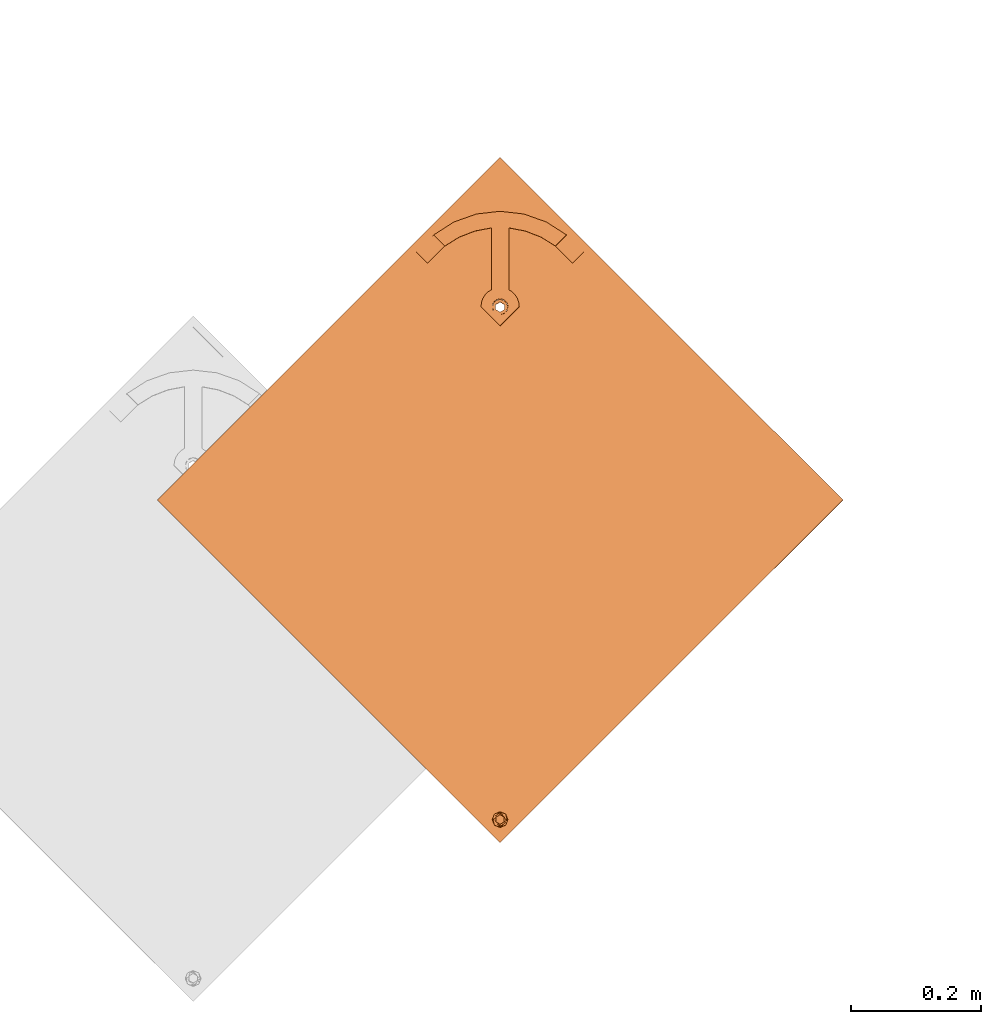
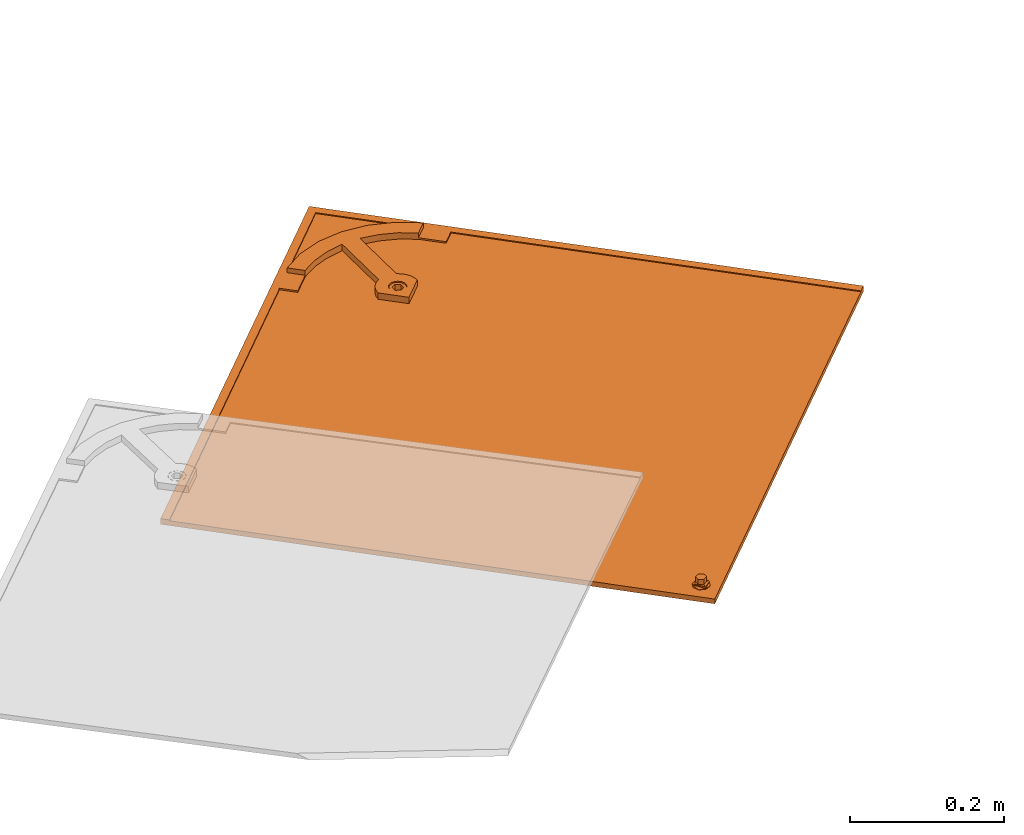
# One storey, part 144 of 151: 1 proxy.
"""IFC2X3 building model written with IfcOpenShell, lengths in millimetres."""

import ifcopenshell
import ifcopenshell.guid

model = None  # the IFC model being written
_history = None  # IfcOwnerHistory: only IFC2X3 demands one
_inside = {}  # id of a spatial element -> (the spatial element, [elements in it])
_under = {}  # id of a project, library or spatial element -> (it, [spatial elements below it])
_declared = {}  # id of a project -> (the project, [libraries it declares])
_typed = {}  # id of a type object -> (the type object, [elements of that type])
_made_of = {}  # id of a material, layer set ... -> (it, [elements and type objects made of it])


def new_model(schema):
    """Start an empty IFC model of exactly this schema.

    Asked for "IFC4X3", IfcOpenShell would pick the latest addendum, in which some entities
    have other attributes; the version numbers below select the first issue.
    IFC2X3 requires an IfcOwnerHistory on every rooted entity: one is made here for all.
    """
    global model, _history
    if schema == "IFC4X3":
        model = ifcopenshell.file(schema_version=(4, 3, 0, 0))
    else:
        model = ifcopenshell.file(schema=schema)
    _inside.clear()
    _under.clear()
    _declared.clear()
    _typed.clear()
    _made_of.clear()
    _history = None
    if model.schema == "IFC2X3":
        org = make("IfcOrganization", Name="unknown")
        user = make(
            "IfcPersonAndOrganization",
            ThePerson=make("IfcPerson", FamilyName="unknown"),
            TheOrganization=org,
        )
        app = make(
            "IfcApplication",
            ApplicationDeveloper=org,
            Version="unknown",
            ApplicationFullName="unknown",
            ApplicationIdentifier="unknown",
        )
        _history = make(
            "IfcOwnerHistory",
            OwningUser=user,
            OwningApplication=app,
            ChangeAction="ADDED",
            CreationDate=0,
        )
    return model


def make(cls, **values):
    """One entity of the class cls with the attributes given. An attribute that is None is left unset."""
    return model.create_entity(
        cls, **{name: value for name, value in values.items() if value is not None}
    )


def entity(cls, *values):
    """Any entity or typed value of the class cls, its attributes in the order of the schema. None: left unset."""
    e = model.create_entity(cls)
    for i, value in enumerate(values):
        if value is not None:
            e[i] = value
    return e


def rooted(cls, **values):
    """An entity with a GlobalId (a new one), such as an element, a storey or a relation."""
    return make(cls, GlobalId=ifcopenshell.guid.new(), OwnerHistory=_history, **values)


def si_unit(unit_type, name, prefix=None):
    """IfcSIUnit, for example si_unit("LENGTHUNIT", "METRE", prefix="MILLI")."""
    return make("IfcSIUnit", UnitType=unit_type, Prefix=prefix, Name=name)


def converted_unit(unit_type, name, factor, base, dimensions=None, offset=None):
    """IfcConversionBasedUnit, such as the inch: factor (a typed value) times the base unit."""
    return make(
        "IfcConversionBasedUnit"
        if offset is None
        else "IfcConversionBasedUnitWithOffset",
        ConversionOffset=offset,
        Dimensions=None
        if dimensions is None
        else entity("IfcDimensionalExponents", *dimensions),
        UnitType=unit_type,
        Name=name,
        ConversionFactor=make(
            "IfcMeasureWithUnit", ValueComponent=factor, UnitComponent=base
        ),
    )


def derived_unit(unit_type, elements):
    """IfcDerivedUnit: a product of units, each with its exponent."""
    return make(
        "IfcDerivedUnit",
        Elements=[
            make("IfcDerivedUnitElement", Unit=unit, Exponent=power)
            for unit, power in elements
        ],
        UnitType=unit_type,
    )


def assignment(units):
    """IfcUnitAssignment: the units of a project."""
    return None if units is None else make("IfcUnitAssignment", Units=units)


def point(xyz):
    """IfcCartesianPoint."""
    return None if xyz is None else make("IfcCartesianPoint", Coordinates=xyz)


def direction(xyz):
    """IfcDirection."""
    return None if xyz is None else make("IfcDirection", DirectionRatios=xyz)


def frame(location, z_axis=None, x_axis=None):
    """IfcAxis2Placement3D, a coordinate frame: its origin and axes. An axis left out is left unset."""
    return make(
        "IfcAxis2Placement3D",
        Location=point(location),
        Axis=direction(z_axis),
        RefDirection=direction(x_axis),
    )


def origin():
    """The frame at (0, 0, 0) with its axes left unset."""
    return frame((0.0, 0.0, 0.0))


def place(relative_to, where):
    """IfcLocalPlacement: puts the frame where relative to a parent placement (None: the world)."""
    return make(
        "IfcLocalPlacement", PlacementRelTo=relative_to, RelativePlacement=where
    )


def context(
    kind, dimensions, precision=None, world=None, true_north=None, identifier=None
):
    """IfcGeometricRepresentationContext, for example the 3D "Model" context."""
    return make(
        "IfcGeometricRepresentationContext",
        ContextIdentifier=identifier,
        ContextType=kind,
        CoordinateSpaceDimension=dimensions,
        Precision=precision,
        WorldCoordinateSystem=world,
        TrueNorth=true_north,
    )


def subcontext(parent, identifier, kind, view, scale=None):
    """IfcGeometricRepresentationSubContext, for example "Body" below "Model"."""
    return make(
        "IfcGeometricRepresentationSubContext",
        ContextIdentifier=identifier,
        ContextType=kind,
        ParentContext=parent,
        TargetScale=scale,
        TargetView=view,
    )


def project(units=None, contexts=None):
    """IfcProject with its units and contexts."""
    return rooted(
        "IfcProject",
        Name="project",
        RepresentationContexts=contexts,
        UnitsInContext=assignment(units),
    )


def spatial(cls, under=None, at=None, **own):
    """A site, building, storey or space (cls), placed at a placement, below another one or the project."""
    s = rooted(cls, ObjectPlacement=at, **own)
    if under is not None:
        _under.setdefault(under.id(), (under, []))[1].append(s)
    return s


def faces_of(points, faces, orient=None, outer=None):
    """IfcFace entities. A face is a list of loops; a loop is a list of indices into points, from 0.

    orient and outer hold one flag for each loop. By default every Orientation is true, the
    first loop of a face is its IfcFaceOuterBound and the others are IfcFaceBound.
    """
    made = []
    for i, loops in enumerate(faces):
        bounds = []
        for j, loop in enumerate(loops):
            is_outer = j == 0 if outer is None else outer[i][j]
            bounds.append(
                make(
                    "IfcFaceOuterBound" if is_outer else "IfcFaceBound",
                    Bound=make("IfcPolyLoop", Polygon=[points[k] for k in loop]),
                    Orientation=True if orient is None else orient[i][j],
                )
            )
        made.append(make("IfcFace", Bounds=bounds))
    return made


def faceted_brep(points, faces, orient=None, outer=None, voids=None):
    """IfcFacetedBrep: a solid bounded by flat faces; with voids (closed shells), ...WithVoids."""
    shared = [point(p) for p in points]
    hull = make("IfcClosedShell", CfsFaces=faces_of(shared, faces, orient, outer))
    if voids is None:
        return make("IfcFacetedBrep", Outer=hull)
    return make(
        "IfcFacetedBrepWithVoids",
        Outer=hull,
        Voids=[
            make(cls, CfsFaces=faces_of(shared, fs, o, b)) for cls, fs, o, b in voids
        ],
    )


def shape(context_of_items, identifier, shape_type, items):
    """IfcShapeRepresentation: the items that make up one representation, for example the "Body"."""
    return make(
        "IfcShapeRepresentation",
        ContextOfItems=context_of_items,
        RepresentationIdentifier=identifier,
        RepresentationType=shape_type,
        Items=items,
    )


def source(mapping_origin, context_of_items, identifier, shape_type, items):
    """IfcRepresentationMap: a shape defined once, which mapped items show again and again."""
    return make(
        "IfcRepresentationMap",
        MappingOrigin=mapping_origin,
        MappedRepresentation=shape(context_of_items, identifier, shape_type, items),
    )


def transform(
    local_origin,
    x_axis=None,
    y_axis=None,
    z_axis=None,
    scale=None,
    scale2=None,
    scale3=None,
    uniform=True,
):
    """IfcCartesianTransformationOperator3D, or its non-uniform kind. x_axis, y_axis, z_axis: its Axis1, 2, 3."""
    if uniform:
        return make(
            "IfcCartesianTransformationOperator3D",
            Axis1=direction(x_axis),
            Axis2=direction(y_axis),
            LocalOrigin=point(local_origin),
            Scale=scale,
            Axis3=direction(z_axis),
        )
    return make(
        "IfcCartesianTransformationOperator3DnonUniform",
        Axis1=direction(x_axis),
        Axis2=direction(y_axis),
        LocalOrigin=point(local_origin),
        Scale=scale,
        Axis3=direction(z_axis),
        Scale2=scale2,
        Scale3=scale3,
    )


def mapped(mapping_source, mapping_target):
    """IfcMappedItem: shows the shape of a source again, moved by a transform."""
    return make(
        "IfcMappedItem", MappingSource=mapping_source, MappingTarget=mapping_target
    )


def material(Name=None, Category=None):
    """IfcMaterial."""
    return make("IfcMaterial", Name=Name, Category=Category)


def material_list(materials):
    """IfcMaterialList."""
    return make("IfcMaterialList", Materials=materials)


def made_of(thing, what):
    """Note that an element or type object is made of a material, layer set ...; save() writes the relation."""
    if what is not None:
        _made_of.setdefault(what.id(), (what, []))[1].append(thing)
    return thing


def type_object(cls, material=None, **own):
    """A type object (cls), such as IfcWallType, which elements share."""
    return made_of(rooted(cls, **own), material)


def type_shapes(of_type, sources):
    """Give a type object the sources (RepresentationMaps) that its elements show as mapped items."""
    of_type.RepresentationMaps = sources


def element(
    cls,
    number,
    at=None,
    inside=None,
    cuts=None,
    type_object=None,
    material=None,
    context=None,
    identifier="Body",
    shape_type=None,
    held_by="IfcProductDefinitionShape",
    body=None,
    shapes=None,
    **own,
):
    """One element of the class cls, such as IfcWall. Its Tag is "e" and its number.

    at: its placement. inside: the storey or other place that contains it. cuts: it is an
    opening in that element (IfcRelVoidsElement). A single representation is given by context,
    identifier, shape_type and body (its items); several are given by shapes. held_by: the class
    of the entity that holds the representations. save() writes the other relations.
    """
    e = rooted(cls, Tag="e%d" % number, ObjectPlacement=at, **own)
    if body is not None:
        shapes = [shape(context, identifier, shape_type, body)]
    if shapes is not None:
        e.Representation = make(held_by, Representations=shapes)
    if inside is not None:
        _inside.setdefault(inside.id(), (inside, []))[1].append(e)
    if cuts is not None:
        rooted(
            "IfcRelVoidsElement", RelatingBuildingElement=cuts, RelatedOpeningElement=e
        )
    if type_object is not None:
        _typed.setdefault(type_object.id(), (type_object, []))[1].append(e)
    return made_of(e, material)


def aggregate(whole, parts):
    """IfcRelAggregates: a whole, such as a stair, and the parts it consists of."""
    return rooted("IfcRelAggregates", RelatingObject=whole, RelatedObjects=parts)


def save(model, path):
    """Write the relations noted so far, then the file.

    IfcRelAggregates (storeys below a building ...), IfcRelContainedInSpatialStructure (elements
    in a storey), IfcRelDefinesByType, IfcRelAssociatesMaterial and IfcRelDeclares: one each for
    every whole, place, type object, material and project.
    """
    for whole, parts in _under.values():
        aggregate(whole, parts)
    for where, things in _inside.values():
        rooted(
            "IfcRelContainedInSpatialStructure",
            RelatedElements=things,
            RelatingStructure=where,
        )
    for kind, things in _typed.values():
        rooted("IfcRelDefinesByType", RelatedObjects=things, RelatingType=kind)
    for what, things in _made_of.values():
        rooted("IfcRelAssociatesMaterial", RelatedObjects=things, RelatingMaterial=what)
    for by, libraries in _declared.values():
        rooted("IfcRelDeclares", RelatingContext=by, RelatedDefinitions=libraries)
    model.write(path)


model = new_model("IFC2X3")

# Units and contexts
model_context = context("Model", 3, precision=0.01, world=origin(), true_north=direction((6.12303176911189e-17, 1.0)))
body_context = subcontext(model_context, "Body", "Model", "MODEL_VIEW")
ifc_project = project(units=[si_unit("LENGTHUNIT", "METRE", prefix="MILLI"), si_unit("AREAUNIT", "SQUARE_METRE"), si_unit("VOLUMEUNIT", "CUBIC_METRE"), converted_unit("PLANEANGLEUNIT", "DEGREE", entity("IfcRatioMeasure", 0.0174532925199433), si_unit("PLANEANGLEUNIT", "RADIAN"), dimensions=[0, 0, 0, 0, 0, 0, 0]), si_unit("MASSUNIT", "GRAM", prefix="KILO"), derived_unit("MASSDENSITYUNIT", [(si_unit("MASSUNIT", "GRAM", prefix="KILO"), 1), (si_unit("LENGTHUNIT", "METRE"), -3)]), si_unit("TIMEUNIT", "SECOND"), si_unit("FREQUENCYUNIT", "HERTZ"), si_unit("THERMODYNAMICTEMPERATUREUNIT", "DEGREE_CELSIUS"), derived_unit("THERMALTRANSMITTANCEUNIT", [(si_unit("MASSUNIT", "GRAM", prefix="KILO"), 1), (si_unit("THERMODYNAMICTEMPERATUREUNIT", "KELVIN"), -1), (si_unit("TIMEUNIT", "SECOND"), -3)]), derived_unit("VOLUMETRICFLOWRATEUNIT", [(si_unit("LENGTHUNIT", "METRE"), 3), (si_unit("TIMEUNIT", "SECOND"), -1)]), si_unit("ELECTRICCURRENTUNIT", "AMPERE"), si_unit("ELECTRICVOLTAGEUNIT", "VOLT"), si_unit("POWERUNIT", "WATT"), si_unit("FORCEUNIT", "NEWTON", prefix="KILO"), si_unit("ILLUMINANCEUNIT", "LUX"), si_unit("LUMINOUSFLUXUNIT", "LUMEN"), si_unit("LUMINOUSINTENSITYUNIT", "CANDELA"), derived_unit("USERDEFINED", [(si_unit("MASSUNIT", "GRAM", prefix="KILO"), -1), (si_unit("LENGTHUNIT", "METRE"), -2), (si_unit("TIMEUNIT", "SECOND"), 3), (si_unit("LUMINOUSFLUXUNIT", "LUMEN"), 1)]), derived_unit("LINEARVELOCITYUNIT", [(si_unit("LENGTHUNIT", "METRE"), 1), (si_unit("TIMEUNIT", "SECOND"), -1)]), si_unit("PRESSUREUNIT", "PASCAL"), derived_unit("USERDEFINED", [(si_unit("LENGTHUNIT", "METRE"), -2), (si_unit("MASSUNIT", "GRAM", prefix="KILO"), 1), (si_unit("TIMEUNIT", "SECOND"), -2)])], contexts=[model_context])

# Site, building, storey
site_placement = place(None, origin())
site = spatial("IfcSite", under=ifc_project, at=site_placement, Name="Default", CompositionType="ELEMENT")
building_placement = place(site_placement, origin())
building = spatial("IfcBuilding", under=site, at=building_placement, CompositionType="ELEMENT")
storey_placement = place(building_placement, origin())
storey = spatial("IfcBuildingStorey", under=building, at=storey_placement, Name="Level 1", CompositionType="ELEMENT", Elevation=0.0)

# Proxy
ifc_material_1 = material(Name="Rubber - Sunstyle - Black")
ifc_material_2 = material(Name="Glass - Sunstyle - Tainted Black")
ifc_material_list_1 = material_list([ifc_material_1, ifc_material_2])
ifc_material_list_2 = material_list([ifc_material_1, ifc_material_2])
building_element_proxy_type = type_object("IfcBuildingElementProxyType", Name="Shingle Customisable - Black", PredefinedType="NOTDEFINED", material=ifc_material_list_2)
shared_shape = source(origin(), body_context, "Body", "Brep", [
    faceted_brep([(0.0, -484.924696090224, 4.00636906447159), (-5.77420283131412, -488.257966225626, 4.0621930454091), (-5.77420283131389, -487.889657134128, 26.0540623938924), (0.0, -484.556386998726, 25.9982384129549), (-5.77420283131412, -494.92450649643, 4.17384100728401), (-5.7742028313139, -494.556197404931, 26.1657103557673), (0.0, -498.257776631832, 4.2296649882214), (0.0, -497.889467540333, 26.2215343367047), (5.77420283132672, -494.92450649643, 4.17384100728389), (5.77420283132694, -494.556197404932, 26.1657103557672), (5.77420283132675, -488.257966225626, 4.06219304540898), (5.77420283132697, -487.889657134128, 26.0540623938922), (-8.60370416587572, -499.825425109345, 26.2539568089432), (0.0, -503.388696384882, 26.3136327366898), (-12.16747511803, -491.22292726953, 26.1098863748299), (-8.6037041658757, -482.620429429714, 25.9658159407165), (0.0, -479.057158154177, 25.9061400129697), (8.60370416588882, -482.620429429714, 25.9658159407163), (12.1674751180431, -491.22292726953, 26.1098863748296), (8.60370416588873, -499.825425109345, 26.253956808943), (-11.3242446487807, -488.92785012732, 28.4227283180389), (-9.75647455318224, -491.151912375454, 30.3502110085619), (0.0, -483.838837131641, 30.9829114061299), (0.0, -482.59833949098, 30.402564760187), (0.0, -480.440788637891, 29.3931896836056), (0.0, -502.832652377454, 27.5886907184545), (0.0, -501.889075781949, 29.7523951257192), (0.0, -498.439700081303, 31.2274395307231), (0.0, -479.5701942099, 27.1991024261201), (-6.3232456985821, -494.789484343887, 31.1663074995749), (-6.32324569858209, -487.489052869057, 31.0440434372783), (11.3242446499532, -493.439270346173, 28.498283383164), (9.84888015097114, -492.226318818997, 30.2713428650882), (6.32324569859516, -487.489052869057, 31.0440434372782), (6.32324569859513, -494.789484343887, 31.1663074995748), (-6.32324569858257, -494.655455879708, 39.1691956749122), (0.0, -498.305671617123, 39.2303277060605), (0.0, -491.005240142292, 39.1080636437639), (-6.32324569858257, -487.355024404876, 39.0469316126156), (6.32324569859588, -494.655455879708, 39.1691956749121), (6.32324569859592, -487.355024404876, 39.0469316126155), (0.0, -483.704808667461, 38.9857995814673), (0.0, -491.591236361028, 4.11801702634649)], [[[0, 1, 2, 3]], [[1, 4, 5, 2]], [[4, 6, 7, 5]], [[6, 8, 9, 7]], [[8, 10, 11, 9]], [[10, 0, 3, 11]], [[12, 7, 13]], [[7, 12, 5]], [[14, 5, 12]], [[5, 14, 2]], [[15, 2, 14]], [[3, 2, 15]], [[15, 16, 3]], [[16, 17, 3]], [[11, 3, 17]], [[11, 17, 18]], [[9, 11, 18]], [[18, 19, 9]], [[7, 9, 19]], [[19, 13, 7]], [[20, 14, 12]], [[21, 22, 23, 24]], [[24, 20, 21]], [[25, 20, 12]], [[26, 27, 21]], [[15, 14, 20]], [[12, 13, 25]], [[20, 28, 15]], [[28, 20, 24]], [[21, 27, 29]], [[21, 29, 30]], [[26, 21, 20]], [[20, 25, 26]], [[15, 28, 16]], [[21, 30, 22]], [[31, 18, 17]], [[28, 31, 17]], [[32, 27, 26]], [[26, 31, 32]], [[26, 25, 31]], [[25, 19, 31]], [[17, 16, 28]], [[31, 19, 18]], [[24, 31, 28]], [[33, 34, 32]], [[23, 22, 33]], [[24, 32, 31]], [[27, 32, 34]], [[32, 23, 33]], [[19, 25, 13]], [[32, 24, 23]], [[35, 36, 37]], [[37, 38, 35]], [[36, 39, 37]], [[40, 37, 39]], [[37, 40, 41]], [[37, 41, 38]], [[42, 6, 4]], [[4, 1, 42]], [[1, 0, 42]], [[42, 8, 6]], [[0, 10, 42]], [[8, 42, 10]], [[22, 30, 38, 41]], [[30, 29, 35, 38]], [[29, 27, 36, 35]], [[27, 34, 39, 36]], [[34, 33, 40, 39]], [[33, 22, 41, 40]]]),
    faceted_brep([(0.0, 284.15295254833, 20.3195200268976), (0.0, 288.652321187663, 20.2441667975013), (-8.60370416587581, 287.716223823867, 20.2598440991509), (8.6037041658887, 287.716223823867, 20.2598440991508), (6.64022859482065, 292.485521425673, 20.1799702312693), (12.1674751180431, 296.318721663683, 20.1157736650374), (6.64022859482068, 300.151921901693, 20.0515770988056), (8.60370416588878, 304.921219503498, 19.9717032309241), (0.0, 303.985122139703, 19.9873805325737), (0.0, 308.484490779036, 19.9120273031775), (-8.60370416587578, 304.921219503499, 19.9717032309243), (-6.64022859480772, 300.151921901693, 20.0515770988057), (-12.1674751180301, 296.318721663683, 20.1157736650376), (-6.64022859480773, 292.485521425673, 20.1799702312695), (-6.6402282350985, 299.883999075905, 4.05382046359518), (0.0, 303.717199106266, 3.98962390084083), (-6.64022823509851, 292.217599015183, 4.18221358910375), (0.0, 288.384398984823, 4.24641015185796), (6.64022823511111, 292.217599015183, 4.18221358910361), (6.64022823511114, 299.883999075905, 4.05382046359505), (-8.60370416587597, 287.448301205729, 4.26208746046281), (0.0, 283.885029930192, 4.32176338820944), (-12.1674751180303, 296.050799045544, 4.11801702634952), (-8.60370416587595, 304.65329688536, 3.97394659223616), (0.0, 308.216568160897, 3.91427066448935), (8.60370416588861, 304.65329688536, 3.97394659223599), (12.1674751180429, 296.050799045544, 4.11801702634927), (8.60370416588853, 287.448301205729, 4.26208746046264)], [[[0, 1, 2]], [[1, 0, 3]], [[3, 4, 1]], [[4, 3, 5]], [[6, 4, 5]], [[5, 7, 6]], [[7, 8, 6]], [[8, 7, 9]], [[8, 9, 10]], [[10, 11, 8]], [[12, 11, 10]], [[2, 13, 12]], [[12, 13, 11]], [[13, 2, 1]], [[8, 11, 14, 15]], [[11, 13, 16, 14]], [[13, 1, 17, 16]], [[1, 4, 18, 17]], [[4, 6, 19, 18]], [[6, 8, 15, 19]], [[20, 17, 21]], [[17, 20, 16]], [[22, 16, 20]], [[14, 16, 22]], [[23, 14, 22]], [[15, 14, 23]], [[23, 24, 15]], [[24, 25, 15]], [[19, 15, 25]], [[19, 25, 26]], [[26, 18, 19]], [[26, 27, 18]], [[17, 18, 27]], [[27, 21, 17]], [[24, 23, 10, 9]], [[10, 23, 22, 12]], [[20, 21, 0, 2]], [[20, 2, 12, 22]], [[21, 27, 3, 0]], [[3, 27, 26, 5]], [[25, 24, 9, 7]], [[25, 7, 5, 26]]]),
    faceted_brep([(518.346802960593, -8.59822572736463, 16.4476231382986), (526.831489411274, -0.113539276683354, 16.3055257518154), (526.831489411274, -0.088421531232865, 17.8053154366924), (518.346802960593, -8.57310798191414, 17.9474128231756), (0.0, 509.603232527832, 7.76903809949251), (-518.346802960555, -8.59822572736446, 16.4476231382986), (-526.831489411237, -0.113539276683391, 16.3055257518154), (0.0, 526.570226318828, 7.48488317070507), (0.0, 526.595344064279, 8.98467285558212), (-526.831489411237, -0.0884215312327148, 17.8053154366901), (-518.346802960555, -8.57310798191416, 17.9474128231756), (0.0, 509.628350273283, 9.26882778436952)], [[[0, 1, 2, 3]], [[1, 0, 4, 5, 6, 7]], [[2, 1, 7, 8]], [[3, 2, 8, 9, 10, 11]], [[0, 3, 11, 4]], [[5, 10, 9, 6]], [[8, 7, 6, 9]], [[4, 11, 10, 5]]]),
    faceted_brep([(0.0, 526.570226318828, 7.48488317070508), (-3.10582854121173, 307.961991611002, 11.1460271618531), (0.0, 308.370824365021, 11.1391802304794), (-6.0, 306.763354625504, 11.166101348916), (3.10582854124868, 307.961991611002, 11.1460271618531), (6.0, 306.763354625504, 11.166101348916), (8.485281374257, 304.856598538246, 11.1980347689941), (10.3923048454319, 302.371665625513, 11.2396512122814), (-8.48528137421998, 304.856598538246, 11.1980347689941), (-10.3923048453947, 302.371665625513, 11.2396512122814), (-11.5911099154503, 299.477899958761, 11.2881145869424), (-526.831489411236, -0.113539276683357, 16.3055257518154), (11.5911099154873, 299.477899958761, 11.2881145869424), (526.831489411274, -0.113539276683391, 16.3055257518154), (-12.0, 296.372506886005, 11.3401221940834), (-11.5911099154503, 293.267113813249, 11.3921298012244), (-10.3923048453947, 290.373348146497, 11.4405931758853), (-8.48528137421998, 287.888415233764, 11.4822096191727), (-6.0, 285.981659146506, 11.5141430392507), (-3.10582854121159, 284.783022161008, 11.5342172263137), (-2.07055236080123, -483.715939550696, 24.4046626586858), (-4.0, -484.515030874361, 24.4180454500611), (-5.65685424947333, -485.7862015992, 24.4393343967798), (-6.92820323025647, -487.442823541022, 24.4670786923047), (-7.72740661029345, -489.37200065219, 24.4993876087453), (-8.0, -491.442262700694, 24.5340593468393), (-7.72740661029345, -493.512524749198, 24.5687310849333), (0.0, -526.797304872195, 25.1261683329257), (-6.92820323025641, -495.441701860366, 24.601040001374), (-5.65685424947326, -497.098323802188, 24.6287842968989), (-4.0, -498.369494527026, 24.6500732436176), (-2.07055236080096, -499.168585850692, 24.6634560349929), (0.0, -499.441141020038, 24.6680206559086), (2.07055236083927, -499.168585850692, 24.6634560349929), (4.0, -498.369494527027, 24.6500732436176), (5.65685424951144, -497.098323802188, 24.6287842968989), (6.92820323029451, -495.441701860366, 24.601040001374), (7.72740661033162, -493.512524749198, 24.5687310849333), (12.0, 296.372506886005, 11.3401221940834), (11.5911099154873, 293.267113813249, 11.3921298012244), (10.3923048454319, 290.373348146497, 11.4405931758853), (8.48528137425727, 287.888415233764, 11.4822096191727), (6.0, 285.981659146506, 11.5141430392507), (3.10582854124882, 284.783022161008, 11.5342172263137), (2.07055236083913, -483.715939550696, 24.4046626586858), (4.0, -484.515030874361, 24.4180454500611), (5.65685424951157, -485.7862015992, 24.4393343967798), (8.0, -491.442262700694, 24.5340593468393), (7.72740661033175, -489.37200065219, 24.4993876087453), (6.92820323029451, -487.442823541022, 24.4670786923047), (0.0, 284.374189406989, 11.5410641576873), (0.0, -483.44338438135, 24.40009803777), (-526.831489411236, -0.239128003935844, 8.80657732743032), (-6.92820323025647, -487.568412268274, 16.9681302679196), (-7.72740661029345, -489.497589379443, 17.0004391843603), (-5.6568542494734, -485.911790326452, 16.9403859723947), (-8.0, -491.567851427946, 17.0351109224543), (-7.72740661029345, -493.63811347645, 17.0697826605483), (0.0, -526.922893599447, 17.6272199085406), (-4.0, -484.640619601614, 16.919097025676), (-2.07055236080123, -483.841528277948, 16.9057142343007), (-3.10582854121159, 284.657433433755, 4.03526880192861), (-6.0, 285.856070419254, 4.01519461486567), (-8.48528137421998, 287.762826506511, 3.98326119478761), (-10.3923048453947, 290.247759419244, 3.94164475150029), (-11.5911099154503, 293.141525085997, 3.89318137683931), (-12.0, 296.246918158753, 3.84117376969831), (-11.5911099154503, 299.352311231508, 3.78916616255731), (0.0, 526.444637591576, -0.0140652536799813), (-10.3923048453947, 302.246076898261, 3.74070278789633), (-8.48528137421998, 304.731009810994, 3.69908634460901), (-6.0, 306.637765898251, 3.66715292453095), (-3.10582854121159, 307.83640288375, 3.64707873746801), (0.0, 308.245235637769, 3.64023180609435), (3.10582854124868, 307.83640288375, 3.64707873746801), (6.0, 306.637765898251, 3.66715292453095), (8.485281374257, 304.731009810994, 3.69908634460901), (10.3923048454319, 302.246076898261, 3.74070278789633), (11.5911099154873, 299.352311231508, 3.78916616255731), (526.831489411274, -0.239128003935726, 8.80657732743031), (7.72740661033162, -493.63811347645, 17.0697826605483), (8.0, -491.567851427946, 17.0351109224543), (7.72740661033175, -489.497589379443, 17.0004391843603), (6.92820323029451, -487.568412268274, 16.9681302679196), (5.65685424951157, -485.911790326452, 16.9403859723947), (4.0, -484.640619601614, 16.919097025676), (2.07055236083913, -483.841528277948, 16.9057142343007), (3.10582854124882, 284.657433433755, 4.03526880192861), (6.0, 285.856070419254, 4.01519461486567), (12.0, 296.246918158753, 3.84117376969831), (11.5911099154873, 293.141525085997, 3.89318137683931), (10.3923048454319, 290.247759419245, 3.94164475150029), (8.48528137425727, 287.762826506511, 3.98326119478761), (0.0, 284.248600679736, 4.04211573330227), (0.0, -483.568973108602, 16.901149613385), (-6.92820323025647, -495.567290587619, 17.1020915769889), (-5.65685424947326, -497.223912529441, 17.1298358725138), (-4.0, -498.495083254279, 17.1511248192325), (-2.07055236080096, -499.294174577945, 17.1645076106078), (0.0, -499.566729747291, 17.1690722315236), (2.07055236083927, -499.294174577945, 17.1645076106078), (4.0, -498.495083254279, 17.1511248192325), (5.65685424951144, -497.223912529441, 17.1298358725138), (6.92820323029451, -495.567290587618, 17.1020915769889)], [[[0, 1, 2]], [[1, 0, 3]], [[0, 2, 4]], [[4, 5, 0]], [[5, 6, 0]], [[0, 6, 7]], [[8, 3, 0]], [[9, 8, 0]], [[9, 0, 10]], [[10, 0, 11]], [[12, 0, 7]], [[12, 13, 0]], [[11, 14, 10]], [[14, 11, 15]], [[16, 15, 11]], [[16, 11, 17]], [[18, 17, 11]], [[11, 19, 18]], [[19, 11, 20]], [[21, 20, 11]], [[11, 22, 21]], [[22, 11, 23]], [[23, 11, 24]], [[25, 24, 11]], [[25, 11, 26]], [[26, 11, 27]], [[27, 28, 26]], [[29, 28, 27]], [[30, 29, 27]], [[31, 30, 27]], [[27, 32, 31]], [[32, 27, 33]], [[34, 33, 27]], [[34, 27, 35]], [[36, 35, 27]], [[37, 36, 27]], [[37, 27, 13]], [[12, 38, 13]], [[39, 13, 38]], [[13, 39, 40]], [[13, 40, 41]], [[41, 42, 13]], [[42, 43, 13]], [[13, 43, 44]], [[45, 13, 44]], [[46, 13, 45]], [[47, 37, 13]], [[48, 47, 13]], [[49, 48, 13]], [[46, 49, 13]], [[20, 50, 19]], [[51, 50, 20]], [[44, 50, 51]], [[43, 50, 44]], [[52, 53, 54]], [[53, 52, 55]], [[52, 54, 56]], [[56, 57, 52]], [[52, 57, 58]], [[59, 55, 52]], [[60, 59, 52]], [[60, 52, 61]], [[61, 52, 62]], [[63, 62, 52]], [[64, 63, 52]], [[65, 64, 52]], [[66, 65, 52]], [[66, 52, 67]], [[52, 68, 67]], [[69, 67, 68]], [[70, 69, 68]], [[68, 71, 70]], [[71, 68, 72]], [[72, 68, 73]], [[74, 73, 68]], [[74, 68, 75]], [[76, 75, 68]], [[68, 77, 76]], [[77, 68, 78]], [[68, 79, 78]], [[58, 80, 79]], [[81, 79, 80]], [[81, 82, 79]], [[82, 83, 79]], [[84, 79, 83]], [[79, 84, 85]], [[85, 86, 79]], [[87, 79, 86]], [[87, 88, 79]], [[89, 78, 79]], [[79, 90, 89]], [[90, 79, 91]], [[92, 91, 79]], [[92, 79, 88]], [[93, 60, 61]], [[93, 86, 94]], [[94, 60, 93]], [[87, 86, 93]], [[58, 57, 95]], [[96, 58, 95]], [[96, 97, 58]], [[97, 98, 58]], [[99, 58, 98]], [[58, 99, 100]], [[58, 100, 101]], [[101, 102, 58]], [[102, 103, 58]], [[103, 80, 58]], [[11, 0, 68, 52]], [[27, 11, 52, 58]], [[13, 27, 58, 79]], [[0, 13, 79, 68]], [[25, 56, 54, 24]], [[24, 54, 53, 23]], [[21, 22, 55, 59]], [[55, 22, 23, 53]], [[20, 21, 59, 60]], [[20, 60, 94, 51]], [[51, 94, 86, 44]], [[44, 86, 85, 45]], [[49, 46, 84, 83]], [[84, 46, 45, 85]], [[48, 49, 83, 82]], [[48, 82, 81, 47]], [[47, 81, 80, 37]], [[37, 80, 103, 36]], [[34, 35, 102, 101]], [[102, 35, 36, 103]], [[33, 34, 101, 100]], [[33, 100, 99, 32]], [[32, 99, 98, 31]], [[31, 98, 97, 30]], [[28, 29, 96, 95]], [[96, 29, 30, 97]], [[26, 28, 95, 57]], [[26, 57, 56, 25]], [[14, 66, 67, 10]], [[10, 67, 69, 9]], [[3, 8, 70, 71]], [[70, 8, 9, 69]], [[1, 3, 71, 72]], [[1, 72, 73, 2]], [[2, 73, 74, 4]], [[4, 74, 75, 5]], [[7, 6, 76, 77]], [[76, 6, 5, 75]], [[12, 7, 77, 78]], [[12, 78, 89, 38]], [[38, 89, 90, 39]], [[39, 90, 91, 40]], [[42, 41, 92, 88]], [[92, 41, 40, 91]], [[43, 42, 88, 87]], [[43, 87, 93, 50]], [[50, 93, 61, 19]], [[19, 61, 62, 18]], [[16, 17, 63, 64]], [[63, 17, 18, 62]], [[15, 16, 64, 65]], [[15, 65, 66, 14]]]),
    faceted_brep([(-111.170556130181, 363.595276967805, 12.7146586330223), (-84.8459082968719, 389.916233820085, 12.273848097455), (-101.929084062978, 406.997014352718, 11.9877875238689), (-108.181486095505, 401.635366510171, 12.077581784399), (-114.152481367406, 395.962091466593, 12.1725950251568), (-128.848225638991, 381.270467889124, 12.4186431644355), (129.045201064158, 381.270467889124, 12.4186431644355), (114.349456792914, 395.962091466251, 12.1725950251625), (108.378461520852, 401.635366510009, 12.0775817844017), (102.126059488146, 406.997014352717, 11.9877875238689), (85.0416860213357, 389.917431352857, 12.2738280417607), (111.367531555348, 363.595276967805, 12.7146586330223), (-8.38679366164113, 305.334718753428, 21.1914297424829), (-18.6056184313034, 319.51669862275, 20.9539168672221), (-23.1061627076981, 314.883693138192, 21.0315081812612), (-10.2938171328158, 302.849785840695, 21.2330461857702), (-5.90151228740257, 307.241474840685, 21.1594963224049), (-13.2015122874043, 323.054746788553, 20.8946633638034), (-3.00734082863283, 308.440111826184, 21.1394221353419), (0.0984877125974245, 308.848944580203, 21.1325752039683), (13.3984877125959, 323.054746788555, 20.8946633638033), (3.20431625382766, 308.440111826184, 21.1394221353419), (6.09848771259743, 307.241474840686, 21.1594963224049), (18.8025938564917, 319.516698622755, 20.953916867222), (8.58376908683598, 305.334718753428, 21.1914297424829), (23.3031381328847, 314.883693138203, 21.031508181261), (10.4907925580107, 302.849785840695, 21.2330461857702), (26.682707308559, 309.379542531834, 21.1236890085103), (11.6895976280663, 299.956020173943, 21.2815095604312), (28.7780404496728, 303.270142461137, 21.2260062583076), (12.0984877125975, 296.850627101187, 21.3335171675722), (29.4879157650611, 296.850627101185, 21.3335171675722), (11.6895976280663, 293.745234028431, 21.3855247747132), (10.4907925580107, 290.851468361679, 21.4339881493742), (8.58376908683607, 288.366535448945, 21.4756045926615), (0.0984877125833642, 267.465319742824, 21.8256479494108), (6.09848771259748, 286.459779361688, 21.5075380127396), (3.20431625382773, 285.26114237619, 21.5276121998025), (0.0984877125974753, 284.852309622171, 21.5344591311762), (-3.00734082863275, 285.26114237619, 21.5276121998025), (-5.9015122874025, 286.459779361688, 21.5075380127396), (-8.3867936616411, 288.366535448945, 21.4756045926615), (-29.2909403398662, 296.850627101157, 21.3335171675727), (-10.2938171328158, 290.851468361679, 21.4339881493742), (-11.4926222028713, 293.745234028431, 21.3855247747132), (-11.9015122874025, 296.850627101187, 21.3335171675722), (-28.581065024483, 303.270142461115, 21.226006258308), (-11.4926222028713, 299.956020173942, 21.2815095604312), (-26.4857318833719, 309.379542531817, 21.1236890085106), (-13.201512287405, 417.933732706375, 19.3056764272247), (13.398487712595, 417.933732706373, 19.3056764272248), (0.0984877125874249, 443.405345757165, 18.8790902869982), (36.5893285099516, 439.231380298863, 18.9489938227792), (38.8682304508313, 413.118852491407, 19.3863136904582), (71.194572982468, 426.925165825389, 19.1550922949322), (63.0228208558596, 403.715218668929, 19.5438011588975), (102.126059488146, 407.12260307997, 19.4867359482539), (85.042883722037, 390.041822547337, 19.77279652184), (-36.3923530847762, 439.231380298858, 18.9489938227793), (-38.6712550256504, 413.118852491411, 19.3863136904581), (-70.9975975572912, 426.92516582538, 19.1550922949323), (-62.8258454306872, 403.715218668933, 19.5438011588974), (-101.929084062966, 407.122603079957, 19.4867359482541), (-84.8459082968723, 390.041822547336, 19.77279652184), (0.0984877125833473, 267.297868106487, 11.8270500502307), (0.0984877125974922, 284.684857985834, 11.5358612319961), (3.20431625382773, 285.093690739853, 11.5290143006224), (-3.00734082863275, 285.093690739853, 11.5290143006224), (6.0984877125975, 286.292327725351, 11.5089401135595), (8.58376908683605, 288.199083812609, 11.4770066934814), (29.4879157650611, 296.683175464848, 11.3349192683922), (-5.90151228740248, 286.292327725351, 11.5089401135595), (-8.38679366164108, 288.199083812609, 11.4770066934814), (-29.2909403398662, 296.68317546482, 11.3349192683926), (-10.2938171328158, 290.684016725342, 11.4353902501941), (-11.4926222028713, 293.577782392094, 11.3869268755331), (-11.9015122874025, 296.68317546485, 11.3349192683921), (-28.5810650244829, 303.102690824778, 11.2274083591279), (-11.4926222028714, 299.788568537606, 11.2829116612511), (-26.4857318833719, 309.21209089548, 11.1250911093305), (-10.2938171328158, 302.682334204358, 11.2344482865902), (-23.1061627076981, 314.716241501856, 11.0329102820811), (-8.38679366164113, 305.167267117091, 11.1928318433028), (-18.6056184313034, 319.349246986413, 10.955318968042), (-5.90151228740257, 307.074023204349, 11.1608984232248), (-13.2015122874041, 322.887295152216, 10.8960654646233), (-3.00734082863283, 308.272660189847, 11.1408242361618), (0.0984877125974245, 308.681492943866, 11.1339773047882), (13.3984877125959, 322.887295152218, 10.8960654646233), (-13.201512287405, 417.766281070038, 9.30707852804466), (13.3984877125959, 417.766281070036, 9.30707852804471), (0.0984877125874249, 443.237894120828, 8.88049238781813), (-36.3923530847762, 439.063928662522, 8.95039592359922), (-38.6712550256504, 412.951400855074, 9.38771579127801), (-70.9975975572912, 426.757714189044, 9.15649439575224), (-62.8258454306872, 403.547767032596, 9.54520325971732), (-101.929084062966, 406.95515144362, 9.48813804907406), (-84.8447105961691, 389.875568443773, 9.77417856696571), (-108.181486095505, 401.593503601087, 9.577932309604), (-114.152481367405, 395.920228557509, 9.67294555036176), (-111.170556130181, 363.553414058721, 10.2150091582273), (-128.848225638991, 381.22860498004, 9.91899368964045), (36.5893285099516, 439.063928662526, 8.95039592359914), (38.8682304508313, 412.95140085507, 9.38771579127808), (71.194572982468, 426.757714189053, 9.15649439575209), (63.0228208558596, 403.547767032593, 9.54520325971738), (102.126059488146, 406.955151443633, 9.48813804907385), (85.042883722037, 389.874370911, 9.77419862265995), (108.378461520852, 401.593503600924, 9.57793230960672), (114.349456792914, 395.920228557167, 9.67294555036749), (111.367531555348, 363.553414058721, 10.2150091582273), (129.045201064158, 381.22860498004, 9.91899368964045), (3.20431625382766, 308.272660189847, 11.1408242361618), (6.09848771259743, 307.074023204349, 11.1608984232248), (18.8025938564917, 319.349246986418, 10.9553189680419), (8.58376908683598, 305.167267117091, 11.1928318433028), (23.3031381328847, 314.716241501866, 11.0329102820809), (10.4907925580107, 302.682334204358, 11.2344482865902), (26.682707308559, 309.212090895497, 11.1250911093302), (11.6895976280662, 299.788568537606, 11.2829116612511), (28.7780404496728, 303.102690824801, 11.2274083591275), (12.0984877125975, 296.68317546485, 11.3349192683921), (11.6895976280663, 293.577782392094, 11.3869268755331), (10.4907925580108, 290.684016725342, 11.4353902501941)], [[[0, 1, 2, 3, 4, 5]], [[6, 7, 8, 9, 10, 11]], [[12, 13, 14]], [[15, 12, 14]], [[16, 13, 12]], [[13, 16, 17]], [[17, 16, 18]], [[18, 19, 17]], [[20, 17, 19]], [[19, 21, 20]], [[22, 20, 21]], [[22, 23, 20]], [[22, 24, 23]], [[25, 23, 24]], [[26, 25, 24]], [[25, 26, 27]], [[26, 28, 27]], [[29, 27, 28]], [[28, 30, 29]], [[31, 29, 30]], [[30, 32, 31]], [[32, 33, 31]], [[31, 33, 34]], [[34, 35, 31]], [[34, 36, 35]], [[37, 35, 36]], [[38, 35, 37]], [[35, 38, 39]], [[40, 35, 39]], [[40, 41, 35]], [[42, 35, 41]], [[43, 42, 41]], [[43, 44, 42]], [[44, 45, 42]], [[45, 46, 42]], [[46, 45, 47]], [[48, 46, 47]], [[47, 15, 48]], [[48, 15, 14]], [[20, 49, 17]], [[49, 20, 50]], [[51, 49, 50]], [[50, 52, 51]], [[53, 52, 50]], [[52, 53, 54]], [[55, 54, 53]], [[54, 55, 56]], [[55, 57, 56]], [[58, 49, 51]], [[49, 58, 59]], [[60, 59, 58]], [[60, 61, 59]], [[61, 60, 62]], [[61, 62, 63]], [[64, 65, 66]], [[65, 64, 67]], [[64, 66, 68]], [[68, 69, 64]], [[64, 69, 70]], [[71, 67, 64]], [[71, 64, 72]], [[72, 64, 73]], [[73, 74, 72]], [[74, 73, 75]], [[76, 75, 73]], [[77, 76, 73]], [[76, 77, 78]], [[78, 77, 79]], [[80, 78, 79]], [[81, 80, 79]], [[82, 80, 81]], [[81, 83, 82]], [[83, 84, 82]], [[84, 83, 85]], [[85, 86, 84]], [[87, 86, 85]], [[87, 85, 88]], [[88, 85, 89]], [[88, 89, 90]], [[89, 91, 90]], [[91, 89, 92]], [[93, 92, 89]], [[94, 92, 93]], [[93, 95, 94]], [[95, 96, 94]], [[97, 96, 95]], [[98, 96, 97]], [[99, 98, 97]], [[97, 100, 99]], [[101, 99, 100]], [[102, 90, 91]], [[90, 102, 103]], [[104, 103, 102]], [[103, 104, 105]], [[105, 104, 106]], [[107, 105, 106]], [[107, 106, 108]], [[109, 107, 108]], [[110, 107, 109]], [[111, 110, 109]], [[87, 88, 112]], [[113, 112, 88]], [[114, 113, 88]], [[115, 113, 114]], [[115, 114, 116]], [[116, 117, 115]], [[116, 118, 117]], [[117, 118, 119]], [[119, 118, 120]], [[121, 119, 120]], [[120, 70, 121]], [[122, 121, 70]], [[70, 69, 123]], [[123, 122, 70]], [[17, 49, 89, 85]], [[13, 17, 85, 83]], [[14, 13, 83, 81]], [[81, 79, 48, 14]], [[46, 48, 79, 77]], [[42, 46, 77, 73]], [[35, 42, 73, 64]], [[31, 35, 64, 70]], [[29, 31, 70, 120]], [[27, 29, 120, 118]], [[118, 116, 25, 27]], [[23, 25, 116, 114]], [[20, 23, 114, 88]], [[50, 20, 88, 90]], [[9, 106, 104, 54, 56]], [[52, 54, 104, 102]], [[51, 52, 102, 91]], [[58, 51, 91, 92]], [[94, 96, 2, 62, 60]], [[60, 58, 92, 94]], [[45, 76, 78, 47]], [[47, 78, 80, 15]], [[16, 12, 82, 84]], [[80, 82, 12, 15]], [[18, 16, 84, 86]], [[87, 19, 18, 86]], [[21, 112, 113, 22]], [[22, 113, 115, 24]], [[28, 26, 117, 119]], [[115, 117, 26, 24]], [[30, 28, 119, 121]], [[21, 19, 87, 112]], [[30, 121, 122, 32]], [[32, 122, 123, 33]], [[36, 34, 69, 68]], [[123, 69, 34, 33]], [[37, 36, 68, 66]], [[65, 38, 37, 66]], [[39, 67, 71, 40]], [[40, 71, 72, 41]], [[44, 43, 74, 75]], [[72, 74, 43, 41]], [[45, 44, 75, 76]], [[39, 38, 65, 67]], [[7, 6, 111, 109]], [[6, 11, 110, 111]], [[7, 109, 108, 8]], [[108, 106, 9, 8]], [[11, 10, 107, 110]], [[0, 5, 101, 100]], [[1, 0, 100, 97]], [[2, 96, 98, 3]], [[98, 99, 4, 3]], [[5, 4, 99, 101]], [[63, 62, 2, 1]], [[56, 57, 10]], [[10, 9, 56]], [[1, 95, 61, 63]], [[1, 97, 95]], [[93, 89, 49, 59]], [[95, 93, 59, 61]], [[90, 103, 53, 50]], [[103, 105, 55, 53]], [[10, 57, 55]], [[107, 10, 105]], [[55, 105, 10]]]),
])
type_shapes(building_element_proxy_type, [shared_shape])
proxy_placement = place(storey_placement, frame((1654.71338211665, 12373.1387530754, 0.0)))
element("IfcBuildingElementProxy", 1, at=proxy_placement, inside=storey, type_object=building_element_proxy_type, material=ifc_material_list_1, Name="Roofing_Panels_SunStyle_Tile_Shingle-Customisable:Shingle Customisable - Black", ObjectType="Roofing_Panels_SunStyle_Tile_Shingle-Customisable:Shingle Customisable - Black", context=body_context, shape_type="MappedRepresentation", body=[
    mapped(shared_shape, transform((0.0, 0.0, 0.0), scale=1.0)),
])

save(model, "model.ifc")
